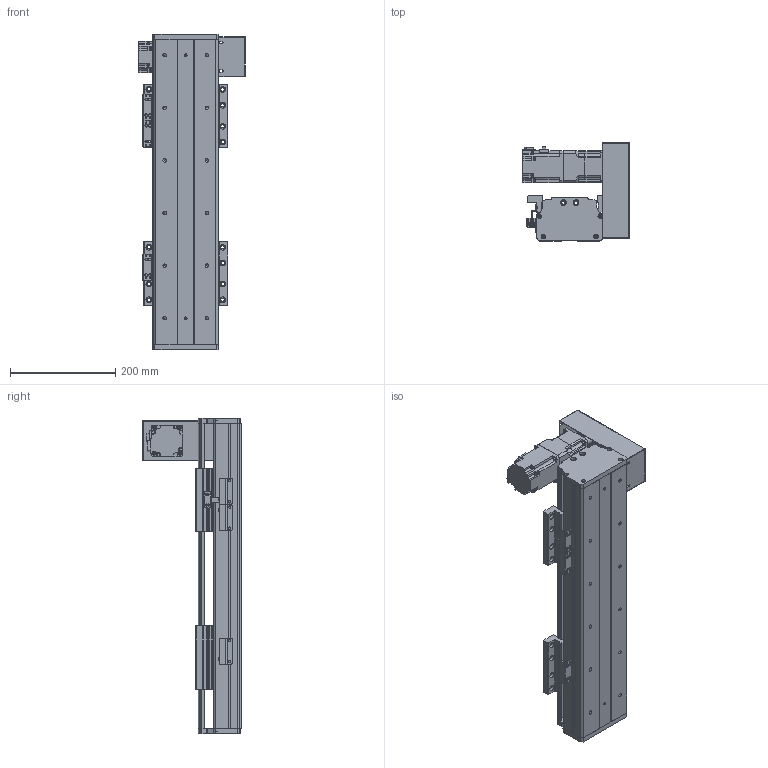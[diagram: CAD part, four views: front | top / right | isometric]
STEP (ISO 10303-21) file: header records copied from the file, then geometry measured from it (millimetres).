
FILE_DESCRIPTION(/* description */ (''),/* implementation_level */ '2;1');
FILE_NAME(/* name */ 'C:\Users\PC\Desktop\3D도면\STEP\DSB125-UR2G-W0300-L.stp',/* time_stamp */ '2018-06-19T16:47:00+09:00',/* author */ ('PC'),/* organization */ (''),/* preprocessor_version */ 'ST-DEVELOPER v16.5',/* originating_system */ 'Autodesk Inventor 2017',/* authorisation */ '');
FILE_SCHEMA (('AUTOMOTIVE_DESIGN { 1 0 10303 214 3 1 1 }'));
Length unit declared in the file: millimetre
Products named in the file (12): DSB125-UL2G-W0300-R_MIR; DSB125-BASE_MIR; DSB125-UP COVER_MIR; DSB125-FRONT COVER_MIR; DSB125-REAR COVER_MIR; hg-kr23__MIR; ab0601-p0401200402_MIR; 13-BELT COVER_MIR; DSR125-SENSOR DOG_MIR; SENSOR BRACKET(EE-SX674A)_MIR; pm-y65_step_MIR; DSB125-TABLE(MSB15S)_MIR
Assembly tree (16 placements, depth 2):
  DSB125-UL2G-W0300-R_MIR
    DSB125-BASE_MIR
    DSB125-UP COVER_MIR
    DSB125-FRONT COVER_MIR
    DSB125-REAR COVER_MIR
    hg-kr23__MIR
    ab0601-p0401200402_MIR
    13-BELT COVER_MIR
    DSR125-SENSOR DOG_MIR
    SENSOR BRACKET(EE-SX674A)_MIR  x3
    pm-y65_step_MIR  x3
    DSB125-TABLE(MSB15S)_MIR  x2
Bounding box: 202.1 x 187 x 600 mm (x, y, z)
Volume: 2855265.7 mm3; surface area: 826470.7 mm2
Topology: 17 solids, 17 shells, 1635 faces, 4440 edges, 2930 vertices
Faces by surface type: plane 903, cylinder 618, cone 102, sphere 8, torus 4
Full cylindrical faces by diameter (mm): 2.459 x20, 3.242 x16, 3.5 x6, 4 x1, 4.134 x16, 4.2 x4, 4.3 x1, 4.5 x50, 4.917 x20, 5 x22, 5.3 x1, 5.5 x4, 5.6 x8, 5.8 x4, 5.9 x8, 6 x4, 6.6 x22, 6.647 x12, 7.5 x32, 8.5 x8, 8.7 x1, 11 x22, 14 x1, 16 x2, 17 x1, 20 x1, 47 x1, 50 x3
Entity records: 35465 total; most frequent: CARTESIAN_POINT 6411, DIRECTION 6010, ORIENTED_EDGE 5426, EDGE_CURVE 2713, AXIS2_PLACEMENT_3D 2193, VERTEX_POINT 1922, LINE 1624, VECTOR 1624
